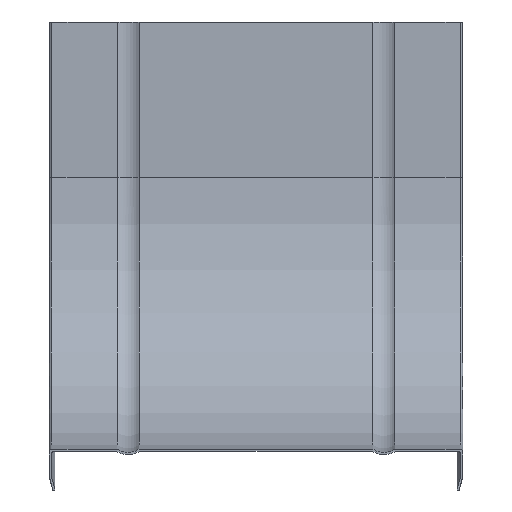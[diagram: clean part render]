
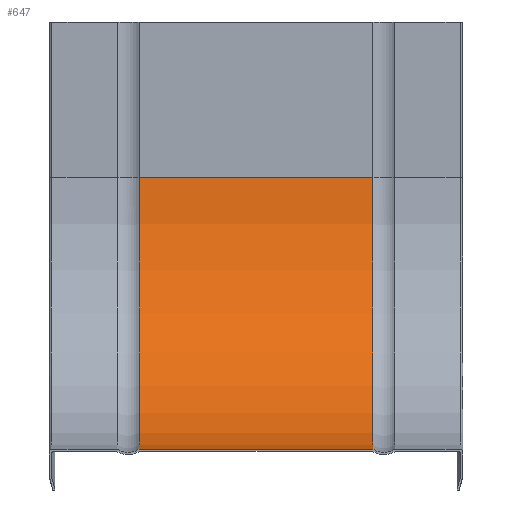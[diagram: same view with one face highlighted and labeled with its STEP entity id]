
A CAD part, front view. The second image highlights one B-rep face of the part: STEP entity #647.
In plain terms, the highlighted cylindrical face has radius 100 mm (diameter 200 mm), a partial arc.
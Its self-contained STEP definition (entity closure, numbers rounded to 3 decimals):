
#165 = EDGE_CURVE ( 'NONE', #483, #1086, #1886, .T. ) ;
#188 = CARTESIAN_POINT ( 'NONE',  ( -43., -100., -57. ) ) ;
#283 = DIRECTION ( 'NONE',  ( 1., 0., 0. ) ) ;
#443 = CARTESIAN_POINT ( 'NONE',  ( -43., 0., -57. ) ) ;
#483 = VERTEX_POINT ( 'NONE', #443 ) ;
#488 = VERTEX_POINT ( 'NONE', #716 ) ;
#595 = CYLINDRICAL_SURFACE ( 'NONE', #596, 100. ) ;
#596 = AXIS2_PLACEMENT_3D ( 'NONE', #1201, #1614, #870 ) ;
#647 = ADVANCED_FACE ( 'NONE', ( #1812 ), #595, .F. ) ;
#670 = CARTESIAN_POINT ( 'NONE',  ( -43., 0., -57. ) ) ;
#716 = CARTESIAN_POINT ( 'NONE',  ( -43., -100., -157. ) ) ;
#718 = AXIS2_PLACEMENT_3D ( 'NONE', #188, #1573, #993 ) ;
#795 = ORIENTED_EDGE ( 'NONE', *, *, #2573, .T. ) ;
#802 = AXIS2_PLACEMENT_3D ( 'NONE', #876, #1836, #1399 ) ;
#870 = DIRECTION ( 'NONE',  ( 0., 0., 1. ) ) ;
#876 = CARTESIAN_POINT ( 'NONE',  ( 43., -100., -57. ) ) ;
#993 = DIRECTION ( 'NONE',  ( 0., 0., 1. ) ) ;
#1071 = EDGE_LOOP ( 'NONE', ( #1489, #2417, #795, #1174 ) ) ;
#1086 = VERTEX_POINT ( 'NONE', #2275 ) ;
#1126 = CARTESIAN_POINT ( 'NONE',  ( -43., -100., -157. ) ) ;
#1162 = CIRCLE ( 'NONE', #802, 100. ) ;
#1174 = ORIENTED_EDGE ( 'NONE', *, *, #2237, .F. ) ;
#1201 = CARTESIAN_POINT ( 'NONE',  ( 0., -100., -57. ) ) ;
#1312 = VECTOR ( 'NONE', #1475, 1000. ) ;
#1320 = LINE ( 'NONE', #1126, #2371 ) ;
#1382 = CARTESIAN_POINT ( 'NONE',  ( 43., -100., -157. ) ) ;
#1399 = DIRECTION ( 'NONE',  ( 0., 0., 1. ) ) ;
#1475 = DIRECTION ( 'NONE',  ( 1., 0., 0. ) ) ;
#1489 = ORIENTED_EDGE ( 'NONE', *, *, #165, .F. ) ;
#1539 = EDGE_CURVE ( 'NONE', #483, #488, #1981, .T. ) ;
#1573 = DIRECTION ( 'NONE',  ( -1., 0., 0. ) ) ;
#1614 = DIRECTION ( 'NONE',  ( -1., 0., 0. ) ) ;
#1812 = FACE_OUTER_BOUND ( 'NONE', #1071, .T. ) ;
#1836 = DIRECTION ( 'NONE',  ( -1., 0., 0. ) ) ;
#1886 = LINE ( 'NONE', #670, #1312 ) ;
#1981 = CIRCLE ( 'NONE', #718, 100. ) ;
#2054 = VERTEX_POINT ( 'NONE', #1382 ) ;
#2237 = EDGE_CURVE ( 'NONE', #1086, #2054, #1162, .T. ) ;
#2275 = CARTESIAN_POINT ( 'NONE',  ( 43., 0., -57. ) ) ;
#2371 = VECTOR ( 'NONE', #283, 1000. ) ;
#2417 = ORIENTED_EDGE ( 'NONE', *, *, #1539, .T. ) ;
#2573 = EDGE_CURVE ( 'NONE', #488, #2054, #1320, .T. ) ;
